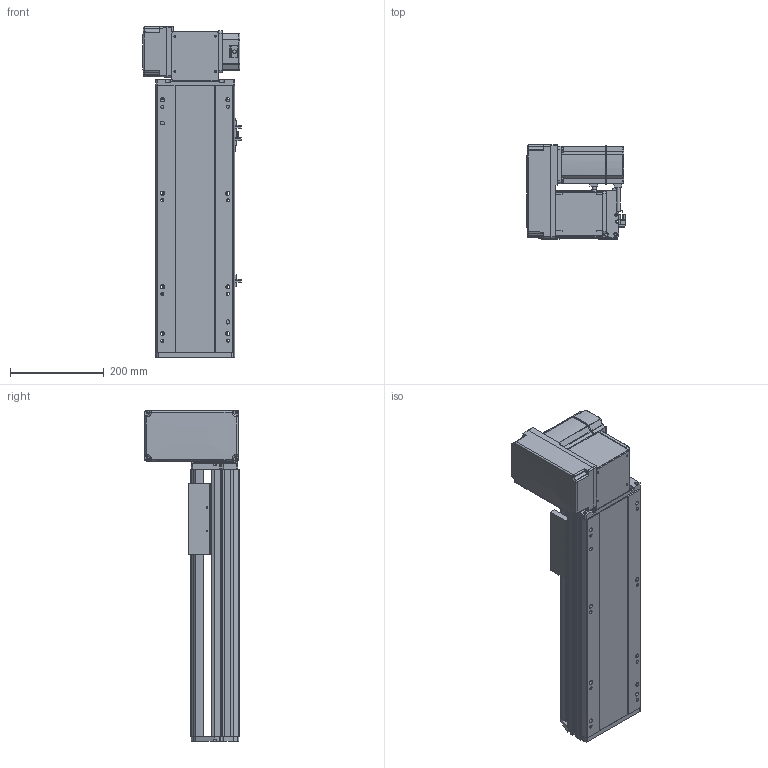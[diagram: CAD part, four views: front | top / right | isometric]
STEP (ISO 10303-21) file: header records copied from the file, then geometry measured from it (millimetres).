
FILE_DESCRIPTION (( 'STEP AP214' ), '1' );
FILE_NAME ('RTB17S-XX-300-LW-M75-C4.STEP', '2025-12-12T00:59:29', ( '' ), ( '' ), 'SwSTEP 2.0', 'SolidWorks 2018', '' );
FILE_SCHEMA (( 'AUTOMOTIVE_DESIGN' ));
Length unit declared in the file: millimetre
Products named in the file (15): EE672^RTB17S-XX-XX-LW-M75-C4; RTB17S-LW-々湍釱蚾饜-750W^RTB17S-XX-XX-LW-M75-C4; RTB22S-GY-018P^RTB17S-LW-々湍釱蚾饜-750W_RTB17S-XX-XX-LW-M75-C4; RTB17S-L-007奻裔^RTB17S-XX-XX-LW-M75-C4; RTB17S-XX-300-LW-M75-C4; 750W萇儂^RTB17S-XX-XX-LW-M75-C4; RTB22S-GY-005P^RTB17S-LW-々湍釱蚾饜-750W_RTB17S-XX-XX-LW-M75-C4; RTB22S-GY-017P^RTB17S-LW-々湍釱蚾饜-750W_RTB17S-XX-XX-LW-M75-C4; RTB17S-L-001-耜醱啣^RTB17S-XX-XX-LW-M75-C4; RTH13-BL-012覜茼え俋离^RTB17S-賑釱_RTB17S-XX-XX-LW-M75-C4; RTB17S-L-004-賑釱^RTB17S-賑釱_RTB17S-XX-XX-LW-M75-C4; RTB17S-L-014-T20-P75--々湍釱^RTB17S-LW-々湍釱蚾饜-750W_RTB17S-XX-XX-LW-M75-C4; RTB22S-GY-008-M75--萇儂啣^RTB17S-LW-々湍釱蚾饜-750W_RTB17S-XX-XX-LW-M75-C4; RTB17-R-011菁釱^RTB17S-XX-XX-LW-M75-C4; RTB17S-賑釱^RTB17S-XX-XX-LW-M75-C4
Assembly tree (17 placements, depth 3):
  RTB17S-XX-300-LW-M75-C4
    RTB17-R-011菁釱^RTB17S-XX-XX-LW-M75-C4
    EE672^RTB17S-XX-XX-LW-M75-C4  x3
    RTB17S-L-001-耜醱啣^RTB17S-XX-XX-LW-M75-C4
    RTB17S-賑釱^RTB17S-XX-XX-LW-M75-C4
      RTB17S-L-004-賑釱^RTB17S-賑釱_RTB17S-XX-XX-LW-M75-C4
      RTH13-BL-012覜茼え俋离^RTB17S-賑釱_RTB17S-XX-XX-LW-M75-C4
    RTB17S-L-007奻裔^RTB17S-XX-XX-LW-M75-C4
    750W萇儂^RTB17S-XX-XX-LW-M75-C4
    RTB17S-LW-々湍釱蚾饜-750W^RTB17S-XX-XX-LW-M75-C4
      RTB17S-L-014-T20-P75--々湍釱^RTB17S-LW-々湍釱蚾饜-750W_RTB17S-XX-XX-LW-M75-C4
      RTB22S-GY-005P^RTB17S-LW-々湍釱蚾饜-750W_RTB17S-XX-XX-LW-M75-C4
      RTB22S-GY-017P^RTB17S-LW-々湍釱蚾饜-750W_RTB17S-XX-XX-LW-M75-C4  x2
      RTB22S-GY-008-M75--萇儂啣^RTB17S-LW-々湍釱蚾饜-750W_RTB17S-XX-XX-LW-M75-C4
      RTB22S-GY-018P^RTB17S-LW-々湍釱蚾饜-750W_RTB17S-XX-XX-LW-M75-C4
Bounding box: 210.4 x 201.5 x 707.5 mm (x, y, z)
Volume: 7822706.8 mm3; surface area: 1211987.9 mm2
Topology: 17 solids, 17 shells, 2041 faces, 5620 edges, 3626 vertices
Faces by surface type: plane 964, cylinder 661, bspline 294, cone 110, sphere 8, torus 4
Entity records: 55798 total; most frequent: CARTESIAN_POINT 16284, ORIENTED_EDGE 8084, DIRECTION 7592, EDGE_CURVE 4042, AXIS2_PLACEMENT_3D 2646, VERTEX_POINT 2630, VECTOR 2300, LINE 2300
